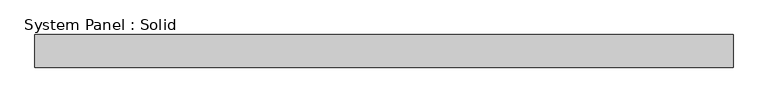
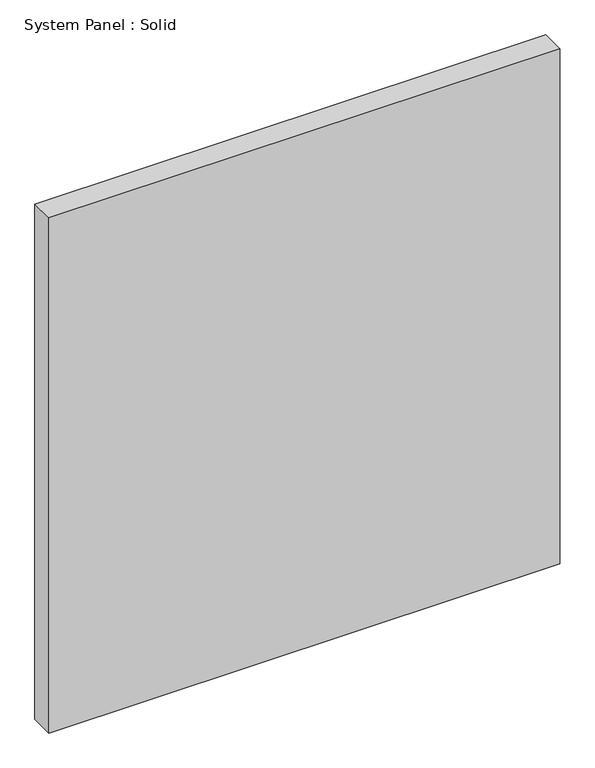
"""IFC4 building model written with IfcOpenShell, lengths in millimetres: plate geometry, System Panel : Solid."""

import ifcopenshell
import ifcopenshell.guid

model = None  # the IFC model being written
_history = None  # IfcOwnerHistory: only IFC2X3 demands one
_inside = {}  # id of a spatial element -> (the spatial element, [elements in it])
_under = {}  # id of a project, library or spatial element -> (it, [spatial elements below it])
_declared = {}  # id of a project -> (the project, [libraries it declares])
_typed = {}  # id of a type object -> (the type object, [elements of that type])
_made_of = {}  # id of a material, layer set ... -> (it, [elements and type objects made of it])


def new_model(schema):
    """Start an empty IFC model of exactly this schema.

    Asked for "IFC4X3", IfcOpenShell would pick the latest addendum, in which some entities
    have other attributes; the version numbers below select the first issue.
    IFC2X3 requires an IfcOwnerHistory on every rooted entity: one is made here for all.
    """
    global model, _history
    if schema == "IFC4X3":
        model = ifcopenshell.file(schema_version=(4, 3, 0, 0))
    else:
        model = ifcopenshell.file(schema=schema)
    _inside.clear()
    _under.clear()
    _declared.clear()
    _typed.clear()
    _made_of.clear()
    _history = None
    if model.schema == "IFC2X3":
        org = make("IfcOrganization", Name="unknown")
        user = make(
            "IfcPersonAndOrganization",
            ThePerson=make("IfcPerson", FamilyName="unknown"),
            TheOrganization=org,
        )
        app = make(
            "IfcApplication",
            ApplicationDeveloper=org,
            Version="unknown",
            ApplicationFullName="unknown",
            ApplicationIdentifier="unknown",
        )
        _history = make(
            "IfcOwnerHistory",
            OwningUser=user,
            OwningApplication=app,
            ChangeAction="ADDED",
            CreationDate=0,
        )
    return model


def make(cls, **values):
    """One entity of the class cls with the attributes given. An attribute that is None is left unset."""
    return model.create_entity(
        cls, **{name: value for name, value in values.items() if value is not None}
    )


def rooted(cls, **values):
    """An entity with a GlobalId (a new one), such as an element, a storey or a relation."""
    return make(cls, GlobalId=ifcopenshell.guid.new(), OwnerHistory=_history, **values)


def si_unit(unit_type, name, prefix=None):
    """IfcSIUnit, for example si_unit("LENGTHUNIT", "METRE", prefix="MILLI")."""
    return make("IfcSIUnit", UnitType=unit_type, Prefix=prefix, Name=name)


def assignment(units):
    """IfcUnitAssignment: the units of a project."""
    return None if units is None else make("IfcUnitAssignment", Units=units)


def point(xyz):
    """IfcCartesianPoint."""
    return None if xyz is None else make("IfcCartesianPoint", Coordinates=xyz)


def direction(xyz):
    """IfcDirection."""
    return None if xyz is None else make("IfcDirection", DirectionRatios=xyz)


def frame(location, z_axis=None, x_axis=None):
    """IfcAxis2Placement3D, a coordinate frame: its origin and axes. An axis left out is left unset."""
    return make(
        "IfcAxis2Placement3D",
        Location=point(location),
        Axis=direction(z_axis),
        RefDirection=direction(x_axis),
    )


def origin():
    """The frame at (0, 0, 0) with its axes left unset."""
    return frame((0.0, 0.0, 0.0))


def origin_with_axes():
    """The frame at (0, 0, 0) with the z axis (0, 0, 1) and the x axis (1, 0, 0) written out."""
    return frame((0.0, 0.0, 0.0), z_axis=(0.0, 0.0, 1.0), x_axis=(1.0, 0.0, 0.0))


def place(relative_to, where):
    """IfcLocalPlacement: puts the frame where relative to a parent placement (None: the world)."""
    return make(
        "IfcLocalPlacement", PlacementRelTo=relative_to, RelativePlacement=where
    )


def context(
    kind, dimensions, precision=None, world=None, true_north=None, identifier=None
):
    """IfcGeometricRepresentationContext, for example the 3D "Model" context."""
    return make(
        "IfcGeometricRepresentationContext",
        ContextIdentifier=identifier,
        ContextType=kind,
        CoordinateSpaceDimension=dimensions,
        Precision=precision,
        WorldCoordinateSystem=world,
        TrueNorth=true_north,
    )


def project(units=None, contexts=None):
    """IfcProject with its units and contexts."""
    return rooted(
        "IfcProject",
        Name="project",
        RepresentationContexts=contexts,
        UnitsInContext=assignment(units),
    )


def spatial(cls, under=None, at=None, **own):
    """A site, building, storey or space (cls), placed at a placement, below another one or the project."""
    s = rooted(cls, ObjectPlacement=at, **own)
    if under is not None:
        _under.setdefault(under.id(), (under, []))[1].append(s)
    return s


def polyline(points):
    """IfcPolyline through the points."""
    return make("IfcPolyline", Points=[point(p) for p in points])


def outline(outer, holes=None, kind="AREA"):
    """IfcArbitraryClosedProfileDef: a profile drawn as a closed curve; with holes, ...WithVoids."""
    if holes is None:
        return make("IfcArbitraryClosedProfileDef", ProfileType=kind, OuterCurve=outer)
    return make(
        "IfcArbitraryProfileDefWithVoids",
        ProfileType=kind,
        OuterCurve=outer,
        InnerCurves=holes,
    )


def extrude(swept, where, along, depth):
    """IfcExtrudedAreaSolid: the profile swept, set in the frame where, extruded along a direction by depth."""
    return make(
        "IfcExtrudedAreaSolid",
        SweptArea=swept,
        Position=where,
        ExtrudedDirection=direction(along),
        Depth=depth,
    )


def shape(context_of_items, identifier, shape_type, items):
    """IfcShapeRepresentation: the items that make up one representation, for example the "Body"."""
    return make(
        "IfcShapeRepresentation",
        ContextOfItems=context_of_items,
        RepresentationIdentifier=identifier,
        RepresentationType=shape_type,
        Items=items,
    )


def source(mapping_origin, context_of_items, identifier, shape_type, items):
    """IfcRepresentationMap: a shape defined once, which mapped items show again and again."""
    return make(
        "IfcRepresentationMap",
        MappingOrigin=mapping_origin,
        MappedRepresentation=shape(context_of_items, identifier, shape_type, items),
    )


def transform(
    local_origin,
    x_axis=None,
    y_axis=None,
    z_axis=None,
    scale=None,
    scale2=None,
    scale3=None,
    uniform=True,
):
    """IfcCartesianTransformationOperator3D, or its non-uniform kind. x_axis, y_axis, z_axis: its Axis1, 2, 3."""
    if uniform:
        return make(
            "IfcCartesianTransformationOperator3D",
            Axis1=direction(x_axis),
            Axis2=direction(y_axis),
            LocalOrigin=point(local_origin),
            Scale=scale,
            Axis3=direction(z_axis),
        )
    return make(
        "IfcCartesianTransformationOperator3DnonUniform",
        Axis1=direction(x_axis),
        Axis2=direction(y_axis),
        LocalOrigin=point(local_origin),
        Scale=scale,
        Axis3=direction(z_axis),
        Scale2=scale2,
        Scale3=scale3,
    )


def mapped(mapping_source, mapping_target):
    """IfcMappedItem: shows the shape of a source again, moved by a transform."""
    return make(
        "IfcMappedItem", MappingSource=mapping_source, MappingTarget=mapping_target
    )


def made_of(thing, what):
    """Note that an element or type object is made of a material, layer set ...; save() writes the relation."""
    if what is not None:
        _made_of.setdefault(what.id(), (what, []))[1].append(thing)
    return thing


def element(
    cls,
    number,
    at=None,
    inside=None,
    cuts=None,
    type_object=None,
    material=None,
    context=None,
    identifier="Body",
    shape_type=None,
    held_by="IfcProductDefinitionShape",
    body=None,
    shapes=None,
    **own,
):
    """One element of the class cls, such as IfcWall. Its Tag is "e" and its number.

    at: its placement. inside: the storey or other place that contains it. cuts: it is an
    opening in that element (IfcRelVoidsElement). A single representation is given by context,
    identifier, shape_type and body (its items); several are given by shapes. held_by: the class
    of the entity that holds the representations. save() writes the other relations.
    """
    e = rooted(cls, Tag="e%d" % number, ObjectPlacement=at, **own)
    if body is not None:
        shapes = [shape(context, identifier, shape_type, body)]
    if shapes is not None:
        e.Representation = make(held_by, Representations=shapes)
    if inside is not None:
        _inside.setdefault(inside.id(), (inside, []))[1].append(e)
    if cuts is not None:
        rooted(
            "IfcRelVoidsElement", RelatingBuildingElement=cuts, RelatedOpeningElement=e
        )
    if type_object is not None:
        _typed.setdefault(type_object.id(), (type_object, []))[1].append(e)
    return made_of(e, material)


def aggregate(whole, parts):
    """IfcRelAggregates: a whole, such as a stair, and the parts it consists of."""
    return rooted("IfcRelAggregates", RelatingObject=whole, RelatedObjects=parts)


def save(model, path):
    """Write the relations noted so far, then the file.

    IfcRelAggregates (storeys below a building ...), IfcRelContainedInSpatialStructure (elements
    in a storey), IfcRelDefinesByType, IfcRelAssociatesMaterial and IfcRelDeclares: one each for
    every whole, place, type object, material and project.
    """
    for whole, parts in _under.values():
        aggregate(whole, parts)
    for where, things in _inside.values():
        rooted(
            "IfcRelContainedInSpatialStructure",
            RelatedElements=things,
            RelatingStructure=where,
        )
    for kind, things in _typed.values():
        rooted("IfcRelDefinesByType", RelatedObjects=things, RelatingType=kind)
    for what, things in _made_of.values():
        rooted("IfcRelAssociatesMaterial", RelatedObjects=things, RelatingMaterial=what)
    for by, libraries in _declared.values():
        rooted("IfcRelDeclares", RelatingContext=by, RelatedDefinitions=libraries)
    model.write(path)


def system_panel_solid_62385949(model_context):
    return source(origin(), model_context, "Body", "SweptSolid", [
        extrude(outline(polyline([(669.9250001, -44.45), (-669.9250001, -44.45), (-669.9250001, 19.05), (669.9250001, 19.05), (669.9250001, -44.45)])), origin_with_axes(), (0.0, 0.0, 1.0), 1428.75),
    ])


if __name__ == "__main__":
    model = new_model("IFC4")
    model_context = context("Model", 3, world=origin())
    ifc_project = project(units=[si_unit("LENGTHUNIT", "METRE", prefix="MILLI")], contexts=[model_context])
    site = spatial("IfcSite", under=ifc_project)
    building = spatial("IfcBuilding", under=site)
    placement = place(None, origin())
    system_panel_solid_shape = system_panel_solid_62385949(model_context)
    element("IfcPlate", 1, ObjectType="System Panel : Solid", at=placement, inside=building, context=model_context, shape_type="MappedRepresentation", body=[
        mapped(system_panel_solid_shape, transform((0.0, 0.0, 0.0), x_axis=(1.0, 0.0, 0.0), y_axis=(0.0, 1.0, 0.0), z_axis=(0.0, 0.0, 1.0))),
    ])
    save(model, "model.ifc")
